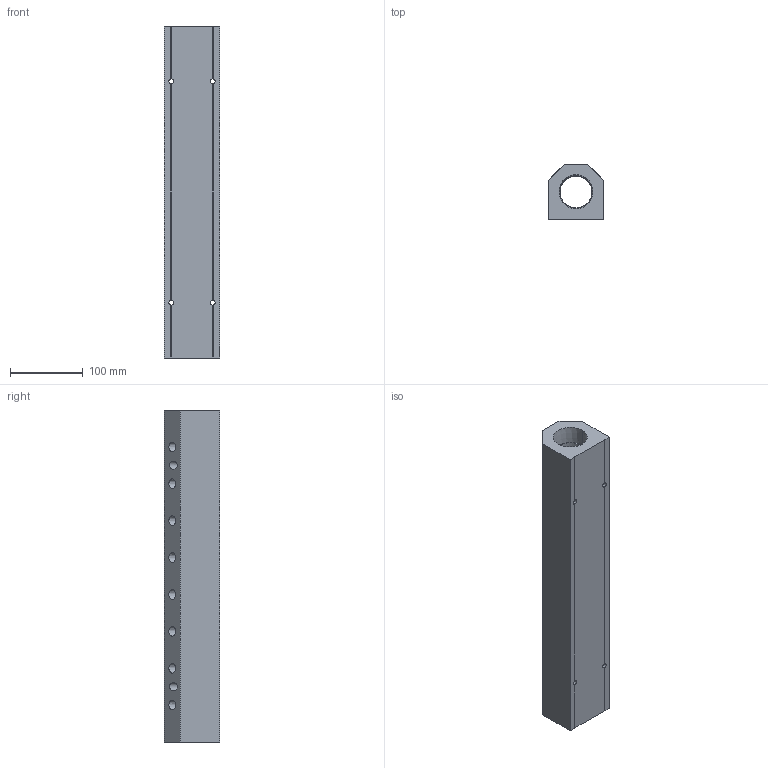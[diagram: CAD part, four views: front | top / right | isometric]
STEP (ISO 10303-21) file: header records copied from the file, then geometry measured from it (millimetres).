
FILE_DESCRIPTION (( 'STEP AP214' ), '1' );
FILE_NAME ('ALM8BCD-N4N24-457B.step', '2022-02-07T07:46:30', ( '' ), ( '' ), 'SwSTEP 2.0', 'SolidWorks 2020', '' );
FILE_SCHEMA (( 'AUTOMOTIVE_DESIGN' ));
Length unit declared in the file: millimetre
Products named in the file (1): ALM8BCD-N4N24-457B
Bounding box: 76.2 x 76.2 x 457 mm (x, y, z)
Volume: 1652955.1 mm3; surface area: 213686.3 mm2
Topology: 1 solids, 1 shells, 368 faces, 979 edges, 650 vertices
Faces by surface type: plane 230, bspline 68, cone 52, cylinder 18
Entity records: 21193 total; most frequent: CARTESIAN_POINT 8922, ORIENTED_EDGE 1958, DIRECTION 1465, EDGE_CURVE 979, VECTOR 695, LINE 695, VERTEX_POINT 650, EDGE_LOOP 463
